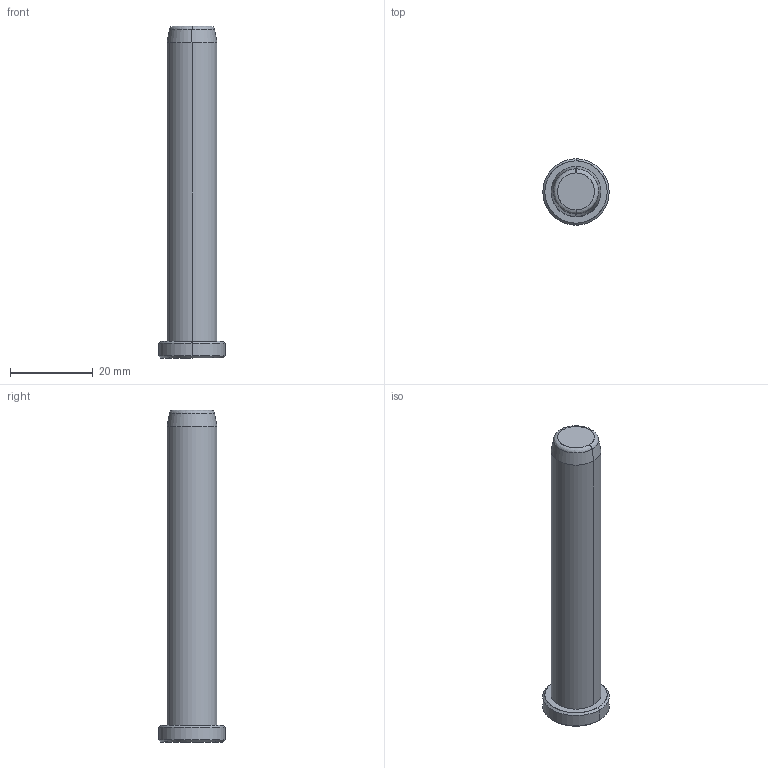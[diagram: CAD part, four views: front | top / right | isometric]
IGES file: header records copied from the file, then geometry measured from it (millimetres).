
Start section: START RECORD GO HERE.
Global section: file name: B81812080.igs; native system: DASSAULT SYSTEMES CATIA V5 R20 - www.3ds.com; preprocessor: CATIA Version 5 Release 20 ; author: Utente; organization: NB04-ASUS; date: 20200419.172508; units: millimetre
Bounding box: 16 x 16 x 80 mm (x, y, z)
Surface area: 3396.8 mm2 (no closed solid volume)
Topology: 0 solids, 0 shells, 17 faces, 68 edges, 68 vertices
Faces by surface type: revolution 14, plane 3
